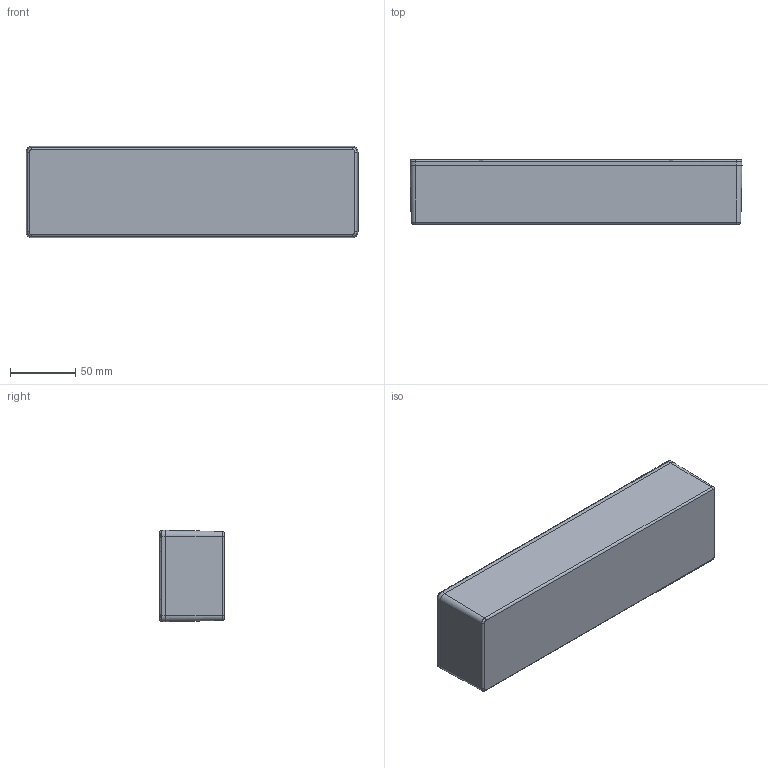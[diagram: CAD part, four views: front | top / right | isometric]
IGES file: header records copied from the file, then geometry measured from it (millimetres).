
Global section: file name: 1590BX.stp; native system: Autodesk Inventor 2016; preprocessor: unknown; author: lwalsh; date: 20160315.095205; units: millimetre
Bounding box: 254 x 49.5 x 70 mm (x, y, z)
Volume: 160140.1 mm3; surface area: 132866 mm2
Topology: 8 solids, 8 shells, 615 faces, 1629 edges, 1060 vertices
Faces by surface type: bspline 615
